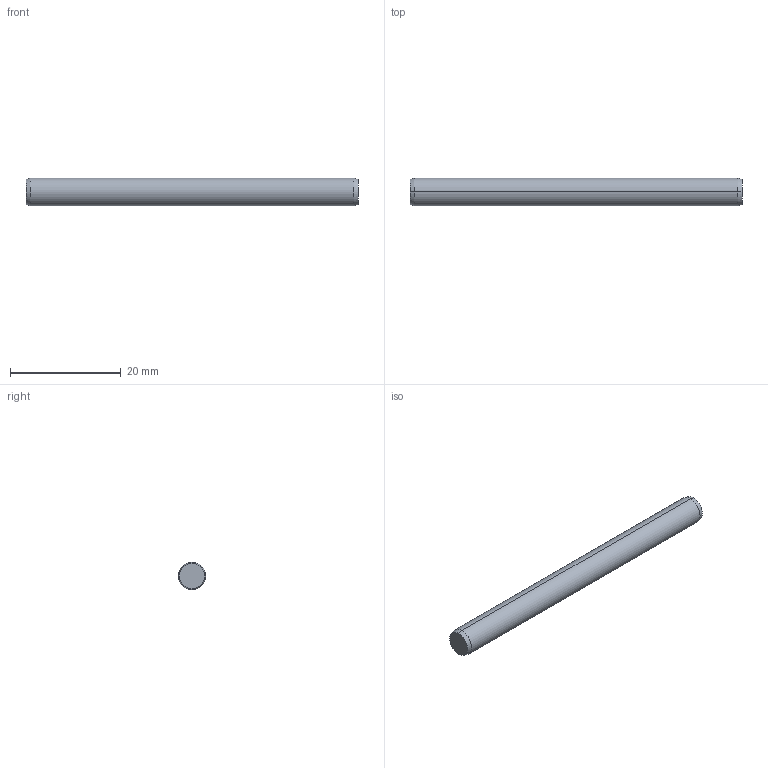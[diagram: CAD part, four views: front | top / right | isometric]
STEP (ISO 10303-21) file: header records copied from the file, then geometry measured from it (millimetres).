
FILE_DESCRIPTION (( 'STEP AP203' ), '1' );
FILE_NAME ('P1206.050-060.step', '2017-06-14T08:18:48', ( 'User' ), ( '' ), 'SwSTEP 2.0', 'SolidWorks 2009', '' );
FILE_SCHEMA (( 'CONFIG_CONTROL_DESIGN' ));
Length unit declared in the file: millimetre
Products named in the file (1): P1206.050-060
Bounding box: 60 x 5 x 5 mm (x, y, z)
Volume: 1175.5 mm3; surface area: 975.1 mm2
Topology: 1 solids, 1 shells, 8 faces, 14 edges, 8 vertices
Faces by surface type: cone 4, cylinder 2, plane 2
Entity records: 271 total; most frequent: DIRECTION 40, CARTESIAN_POINT 31, ORIENTED_EDGE 28, AXIS2_PLACEMENT_3D 17, EDGE_CURVE 14, CIRCLE 8, FACE_OUTER_BOUND 8, EDGE_LOOP 8
